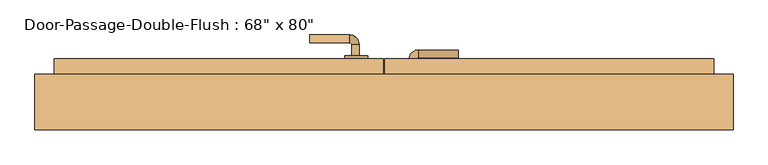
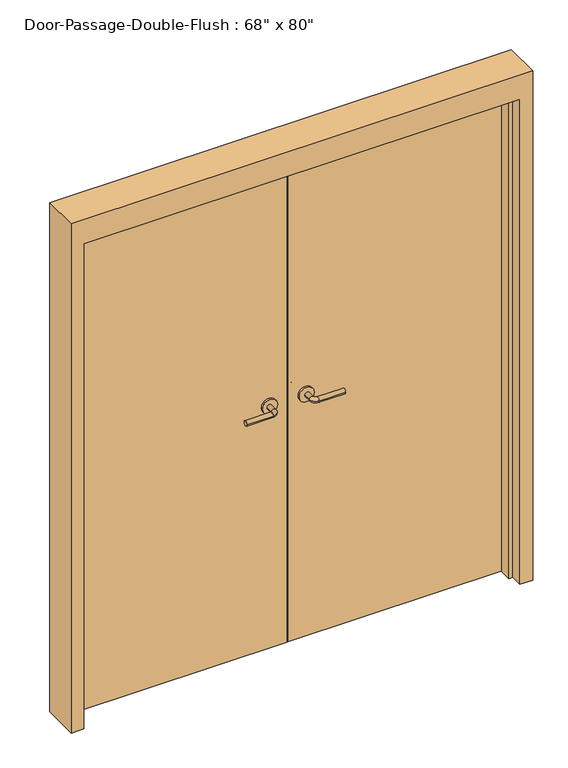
"""IFC4 building model written with IfcOpenShell, lengths in millimetres: door geometry."""

from ifc_helpers import new_model, si_unit, point, frame, frame_2d, origin, origin_with_axes, place, context, project, spatial, polyline, circle_curve, ellipse_curve, trimmed, segment, composite_curve, outline, extrude, faceted_brep, source, transform, mapped, element, save
from ifc_brep_helpers import plane_surface, cylinder_surface, revolved_surface, advanced_brep


def door_2eaef4e6(model_context):
    return source(origin(), model_context, "Body", "SolidModel", [
        advanced_brep(
        [(-65.009375, -9.5875, 1016.0), (-85.009375, -9.5875, 1016.0), (-65.009375, -39.5875, 1016.0), (-85.009375, -39.5875, 1016.0), (-90.009375, -44.5875, 1016.0), (-90.009375, -64.5875, 1016.0), (-195.009375, -64.5875, 1016.0), (-195.009375, -44.5875, 1016.0)],
        [
            (0, 1, circle_curve(frame((-75.009375, -9.5875, 1016.0), z_axis=(0.0, 1.0, 0.0), x_axis=(-1.0, 0.0, 0.0)), 10.0)),
            (1, 0, circle_curve(frame((-75.009375, -9.5875, 1016.0), z_axis=(0.0, 1.0, 0.0), x_axis=(-1.0, 0.0, 0.0)), 10.0)),
            (0, 2),
            (2, 3, circle_curve(frame((-75.009375, -39.5875, 1016.0), z_axis=(0.0, 1.0, 0.0), x_axis=(-1.0, 0.0, 0.0)), 10.0)),
            (3, 1),
            (3, 2, circle_curve(frame((-75.009375, -39.5875, 1016.0), z_axis=(0.0, 1.0, 0.0), x_axis=(-1.0, 0.0, 0.0)), 10.0)),
            (4, 3, circle_curve(frame((-90.009375, -39.5875, 1016.0), z_axis=(0.0, 0.0, 1.0), x_axis=(1.0, 0.0, 0.0)), 5.0)),
            (2, 5, circle_curve(frame((-90.009375, -39.5875, 1016.0), z_axis=(0.0, 0.0, -1.0), x_axis=(1.0, 0.0, 0.0)), 25.0)),
            (5, 4, circle_curve(frame((-90.009375, -54.5875, 1016.0), z_axis=(1.0, 0.0, 0.0), x_axis=(0.0, 1.0, 0.0)), 10.0)),
            (4, 5, circle_curve(frame((-90.009375, -54.5875, 1016.0), z_axis=(1.0, 0.0, 0.0), x_axis=(0.0, 1.0, 0.0)), 10.0)),
            (6, 7, circle_curve(frame((-195.009375, -54.5875, 1016.0), z_axis=(-1.0, 0.0, 0.0), x_axis=(0.0, 1.0, 0.0)), 10.0)),
            (7, 6, circle_curve(frame((-195.009375, -54.5875, 1016.0), z_axis=(-1.0, 0.0, 0.0), x_axis=(0.0, 1.0, 0.0)), 10.0)),
            (5, 6),
            (7, 4),
        ],
        [
            plane_surface(frame((-75.009375, -9.5875, 1016.0), z_axis=(0.0, 1.0, 0.0), x_axis=(0.0, 0.0, 1.0))),
            cylinder_surface(frame((-75.009375, -9.5875, 1016.0), z_axis=(0.0, 1.0, 0.0), x_axis=(-1.0, 0.0, 0.0)), 10.0),
            revolved_surface(trimmed(ellipse_curve(frame((-75.009375, -39.5875, 1016.0), z_axis=(0.0, 1.0, 0.0), x_axis=(-1.0, 0.0, 0.0)), 10.0, 10.0), [point((-65.009375, -39.5875, 1016.0))], [point((-85.009375, -39.5875, 1016.0))], True, "CARTESIAN"), (-90.009375, -39.5875, 1016.0), (0.0, 0.0, -1.0)),
            revolved_surface(trimmed(ellipse_curve(frame((-75.009375, -39.5875, 1016.0), z_axis=(0.0, 1.0, 0.0), x_axis=(-1.0, 0.0, 0.0)), 10.0, 10.0), [point((-85.009375, -39.5875, 1016.0))], [point((-65.009375, -39.5875, 1016.0))], True, "CARTESIAN"), (-90.009375, -39.5875, 1016.0), (0.0, 0.0, -1.0)),
            plane_surface(frame((-195.009375, -54.5875, 1016.0), z_axis=(-1.0, 0.0, 0.0), x_axis=(0.0, 0.0, 1.0))),
            cylinder_surface(frame((-90.009375, -54.5875, 1016.0), z_axis=(1.0, 0.0, 0.0), x_axis=(0.0, 1.0, 0.0)), 10.0),
        ],
        [
            (0, [[1, 2]]),
            (1, [[-1, 3, 4, 5]]),
            (1, [[-2, -5, 6, -3]]),
            (2, [[7, -4, 8, 9]]),
            (3, [[-8, -6, -7, 10]]),
            (4, [[11, 12]]),
            (5, [[-9, 13, -12, 14]]),
            (5, [[-10, -14, -11, -13]]),
        ],
    ),
        extrude(outline(composite_curve([segment(trimmed(circle_curve(frame_2d((1016.0, -72.509375)), 30.0), [point((1016.0, -42.509375))], [point((1016.0, -102.509375))], False, "CARTESIAN"), True, "CONTINUOUS"), segment(trimmed(circle_curve(frame_2d((1016.0, -72.509375)), 30.0), [point((1016.0, -102.509375))], [point((1016.0, -42.509375))], False, "CARTESIAN"), True, "CONTINUOUS")], self_intersect=False)), frame((0.0, -9.5875, 0.0), z_axis=(0.0, 1.0, 0.0), x_axis=(0.0, 0.0, 1.0)), (0.0, 0.0, 1.0), 8.0),
        advanced_brep(
        [(-65.009375, 90.55, 1016.0), (-85.009375, 90.55, 1016.0), (-85.009375, 120.55, 1016.0), (-65.009375, 120.55, 1016.0), (-90.009375, 125.55, 1016.0), (-90.009375, 145.55, 1016.0), (-195.009375, 145.55, 1016.0), (-195.009375, 125.55, 1016.0)],
        [
            (0, 1, circle_curve(frame((-75.009375, 90.55, 1016.0), z_axis=(0.0, -1.0, 0.0), x_axis=(-1.0, 0.0, 0.0)), 10.0)),
            (1, 0, circle_curve(frame((-75.009375, 90.55, 1016.0), z_axis=(0.0, -1.0, 0.0), x_axis=(-1.0, 0.0, 0.0)), 10.0)),
            (1, 2),
            (2, 3, circle_curve(frame((-75.009375, 120.55, 1016.0), z_axis=(0.0, -1.0, 0.0), x_axis=(-1.0, 0.0, 0.0)), 10.0)),
            (3, 0),
            (3, 2, circle_curve(frame((-75.009375, 120.55, 1016.0), z_axis=(0.0, -1.0, 0.0), x_axis=(-1.0, 0.0, 0.0)), 10.0)),
            (4, 5, circle_curve(frame((-90.009375, 135.55, 1016.0), z_axis=(1.0, 0.0, 0.0), x_axis=(0.0, -1.0, 0.0)), 10.0)),
            (5, 3, circle_curve(frame((-90.009375, 120.55, 1016.0), z_axis=(0.0, 0.0, -1.0), x_axis=(1.0, 0.0, 0.0)), 25.0)),
            (2, 4, circle_curve(frame((-90.009375, 120.55, 1016.0), z_axis=(0.0, 0.0, 1.0), x_axis=(1.0, 0.0, 0.0)), 5.0)),
            (5, 4, circle_curve(frame((-90.009375, 135.55, 1016.0), z_axis=(1.0, 0.0, 0.0), x_axis=(0.0, -1.0, 0.0)), 10.0)),
            (6, 7, circle_curve(frame((-195.009375, 135.55, 1016.0), z_axis=(-1.0, 0.0, 0.0), x_axis=(0.0, -1.0, 0.0)), 10.0)),
            (7, 6, circle_curve(frame((-195.009375, 135.55, 1016.0), z_axis=(-1.0, 0.0, 0.0), x_axis=(0.0, -1.0, 0.0)), 10.0)),
            (4, 7),
            (6, 5),
        ],
        [
            plane_surface(frame((-75.009375, 90.55, 1016.0), z_axis=(0.0, -1.0, 0.0), x_axis=(0.0, 0.0, 1.0))),
            cylinder_surface(frame((-75.009375, 90.55, 1016.0), z_axis=(0.0, -1.0, 0.0), x_axis=(-1.0, 0.0, 0.0)), 10.0),
            revolved_surface(trimmed(ellipse_curve(frame((-75.009375, 120.55, 1016.0), z_axis=(0.0, 1.0, 0.0), x_axis=(-1.0, 0.0, 0.0)), 10.0, 10.0), [point((-65.009375, 120.55, 1016.0))], [point((-85.009375, 120.55, 1016.0))], True, "CARTESIAN"), (-90.009375, 120.55, 1016.0), (0.0, 0.0, -1.0)),
            revolved_surface(trimmed(ellipse_curve(frame((-75.009375, 120.55, 1016.0), z_axis=(0.0, 1.0, 0.0), x_axis=(-1.0, 0.0, 0.0)), 10.0, 10.0), [point((-85.009375, 120.55, 1016.0))], [point((-65.009375, 120.55, 1016.0))], True, "CARTESIAN"), (-90.009375, 120.55, 1016.0), (0.0, 0.0, -1.0)),
            plane_surface(frame((-195.009375, 135.55, 1016.0), z_axis=(-1.0, 0.0, 0.0), x_axis=(0.0, 0.0, 1.0))),
            cylinder_surface(frame((-90.009375, 135.55, 1016.0), z_axis=(1.0, 0.0, 0.0), x_axis=(0.0, -1.0, 0.0)), 10.0),
        ],
        [
            (0, [[1, 2]]),
            (1, [[3, 4, 5, -2]]),
            (1, [[-5, 6, -3, -1]]),
            (2, [[7, 8, -4, 9]]),
            (3, [[10, -9, -6, -8]]),
            (4, [[11, 12]]),
            (5, [[13, -11, 14, -7]]),
            (5, [[-14, -12, -13, -10]]),
        ],
    ),
        extrude(outline(composite_curve([segment(trimmed(circle_curve(frame_2d((1016.0, -72.509375)), 30.0), [point((1016.0, -42.509375))], [point((1016.0, -102.509375))], False, "CARTESIAN"), True, "CONTINUOUS"), segment(trimmed(circle_curve(frame_2d((1016.0, -72.509375)), 30.0), [point((1016.0, -102.509375))], [point((1016.0, -42.509375))], False, "CARTESIAN"), True, "CONTINUOUS")], self_intersect=False)), frame((0.0, 82.55, 0.0), z_axis=(0.0, 1.0, 0.0), x_axis=(0.0, 0.0, 1.0)), (0.0, 0.0, 1.0), 8.0),
        advanced_brep(
        [(65.009375, -9.5875, 1016.0), (85.009375, -9.5875, 1016.0), (85.009375, -39.5875, 1016.0), (65.009375, -39.5875, 1016.0), (90.009375, -44.5875, 1016.0), (90.009375, -64.5875, 1016.0), (195.009375, -64.5875, 1016.0), (195.009375, -44.5875, 1016.0)],
        [
            (0, 1, circle_curve(frame((75.009375, -9.5875, 1016.0), z_axis=(0.0, 1.0, 0.0), x_axis=(1.0, 0.0, 0.0)), 10.0)),
            (1, 0, circle_curve(frame((75.009375, -9.5875, 1016.0), z_axis=(0.0, 1.0, 0.0), x_axis=(1.0, 0.0, 0.0)), 10.0)),
            (1, 2),
            (2, 3, circle_curve(frame((75.009375, -39.5875, 1016.0), z_axis=(0.0, 1.0, 0.0), x_axis=(1.0, 0.0, 0.0)), 10.0)),
            (3, 0),
            (3, 2, circle_curve(frame((75.009375, -39.5875, 1016.0), z_axis=(0.0, 1.0, 0.0), x_axis=(1.0, 0.0, 0.0)), 10.0)),
            (4, 5, circle_curve(frame((90.009375, -54.5875, 1016.0), z_axis=(-1.0, 0.0, 0.0), x_axis=(0.0, 1.0, 0.0)), 10.0)),
            (5, 3, circle_curve(frame((90.009375, -39.5875, 1016.0), z_axis=(0.0, 0.0, -1.0), x_axis=(-1.0, 0.0, 0.0)), 25.0)),
            (2, 4, circle_curve(frame((90.009375, -39.5875, 1016.0), z_axis=(0.0, 0.0, 1.0), x_axis=(-1.0, 0.0, 0.0)), 5.0)),
            (5, 4, circle_curve(frame((90.009375, -54.5875, 1016.0), z_axis=(-1.0, 0.0, 0.0), x_axis=(0.0, 1.0, 0.0)), 10.0)),
            (6, 7, circle_curve(frame((195.009375, -54.5875, 1016.0), z_axis=(1.0, 0.0, 0.0), x_axis=(0.0, 1.0, 0.0)), 10.0)),
            (7, 6, circle_curve(frame((195.009375, -54.5875, 1016.0), z_axis=(1.0, 0.0, 0.0), x_axis=(0.0, 1.0, 0.0)), 10.0)),
            (4, 7),
            (6, 5),
        ],
        [
            plane_surface(frame((75.009375, -9.5875, 1016.0), z_axis=(0.0, 1.0, 0.0), x_axis=(0.0, 0.0, 1.0))),
            cylinder_surface(frame((75.009375, -9.5875, 1016.0), z_axis=(0.0, 1.0, 0.0), x_axis=(1.0, 0.0, 0.0)), 10.0),
            revolved_surface(trimmed(ellipse_curve(frame((75.009375, -39.5875, 1016.0), z_axis=(0.0, -1.0, 0.0), x_axis=(1.0, 0.0, 0.0)), 10.0, 10.0), [point((65.009375, -39.5875, 1016.0))], [point((85.009375, -39.5875, 1016.0))], True, "CARTESIAN"), (90.009375, -39.5875, 1016.0), (0.0, 0.0, -1.0)),
            revolved_surface(trimmed(ellipse_curve(frame((75.009375, -39.5875, 1016.0), z_axis=(0.0, -1.0, 0.0), x_axis=(1.0, 0.0, 0.0)), 10.0, 10.0), [point((85.009375, -39.5875, 1016.0))], [point((65.009375, -39.5875, 1016.0))], True, "CARTESIAN"), (90.009375, -39.5875, 1016.0), (0.0, 0.0, -1.0)),
            plane_surface(frame((195.009375, -54.5875, 1016.0), z_axis=(1.0, 0.0, 0.0), x_axis=(0.0, 0.0, 1.0))),
            cylinder_surface(frame((90.009375, -54.5875, 1016.0), z_axis=(-1.0, 0.0, 0.0), x_axis=(0.0, 1.0, 0.0)), 10.0),
        ],
        [
            (0, [[1, 2]]),
            (1, [[3, 4, 5, -2]]),
            (1, [[-5, 6, -3, -1]]),
            (2, [[7, 8, -4, 9]]),
            (3, [[10, -9, -6, -8]]),
            (4, [[11, 12]]),
            (5, [[13, -11, 14, -7]]),
            (5, [[-14, -12, -13, -10]]),
        ],
    ),
        extrude(outline(composite_curve([segment(trimmed(circle_curve(frame_2d((1016.0, 72.509375)), 30.0), [point((1016.0, 42.509375))], [point((1016.0, 102.509375))], False, "CARTESIAN"), True, "CONTINUOUS"), segment(trimmed(circle_curve(frame_2d((1016.0, 72.509375)), 30.0), [point((1016.0, 102.509375))], [point((1016.0, 42.509375))], False, "CARTESIAN"), True, "CONTINUOUS")], self_intersect=False)), frame((0.0, -9.5875, 0.0), z_axis=(0.0, 1.0, 0.0), x_axis=(0.0, 0.0, 1.0)), (0.0, 0.0, 1.0), 8.0),
        advanced_brep(
        [(65.009375, 50.8625, 1016.0), (85.009375, 50.8625, 1016.0), (65.009375, 80.8625, 1016.0), (85.009375, 80.8625, 1016.0), (90.009375, 85.8625, 1016.0), (90.009375, 105.8625, 1016.0), (195.009375, 105.8625, 1016.0), (195.009375, 85.8625, 1016.0)],
        [
            (0, 1, circle_curve(frame((75.009375, 50.8625, 1016.0), z_axis=(0.0, -1.0, 0.0), x_axis=(1.0, 0.0, 0.0)), 10.0)),
            (1, 0, circle_curve(frame((75.009375, 50.8625, 1016.0), z_axis=(0.0, -1.0, 0.0), x_axis=(1.0, 0.0, 0.0)), 10.0)),
            (0, 2),
            (2, 3, circle_curve(frame((75.009375, 80.8625, 1016.0), z_axis=(0.0, -1.0, 0.0), x_axis=(1.0, 0.0, 0.0)), 10.0)),
            (3, 1),
            (3, 2, circle_curve(frame((75.009375, 80.8625, 1016.0), z_axis=(0.0, -1.0, 0.0), x_axis=(1.0, 0.0, 0.0)), 10.0)),
            (4, 3, circle_curve(frame((90.009375, 80.8625, 1016.0), z_axis=(0.0, 0.0, 1.0), x_axis=(-1.0, 0.0, 0.0)), 5.0)),
            (2, 5, circle_curve(frame((90.009375, 80.8625, 1016.0), z_axis=(0.0, 0.0, -1.0), x_axis=(-1.0, 0.0, 0.0)), 25.0)),
            (5, 4, circle_curve(frame((90.009375, 95.8625, 1016.0), z_axis=(-1.0, 0.0, 0.0), x_axis=(0.0, -1.0, 0.0)), 10.0)),
            (4, 5, circle_curve(frame((90.009375, 95.8625, 1016.0), z_axis=(-1.0, 0.0, 0.0), x_axis=(0.0, -1.0, 0.0)), 10.0)),
            (6, 7, circle_curve(frame((195.009375, 95.8625, 1016.0), z_axis=(1.0, 0.0, 0.0), x_axis=(0.0, -1.0, 0.0)), 10.0)),
            (7, 6, circle_curve(frame((195.009375, 95.8625, 1016.0), z_axis=(1.0, 0.0, 0.0), x_axis=(0.0, -1.0, 0.0)), 10.0)),
            (5, 6),
            (7, 4),
        ],
        [
            plane_surface(frame((75.009375, 50.8625, 1016.0), z_axis=(0.0, -1.0, 0.0), x_axis=(0.0, 0.0, 1.0))),
            cylinder_surface(frame((75.009375, 50.8625, 1016.0), z_axis=(0.0, -1.0, 0.0), x_axis=(1.0, 0.0, 0.0)), 10.0),
            revolved_surface(trimmed(ellipse_curve(frame((75.009375, 80.8625, 1016.0), z_axis=(0.0, -1.0, 0.0), x_axis=(1.0, 0.0, 0.0)), 10.0, 10.0), [point((65.009375, 80.8625, 1016.0))], [point((85.009375, 80.8625, 1016.0))], True, "CARTESIAN"), (90.009375, 80.8625, 1016.0), (0.0, 0.0, -1.0)),
            revolved_surface(trimmed(ellipse_curve(frame((75.009375, 80.8625, 1016.0), z_axis=(0.0, -1.0, 0.0), x_axis=(1.0, 0.0, 0.0)), 10.0, 10.0), [point((85.009375, 80.8625, 1016.0))], [point((65.009375, 80.8625, 1016.0))], True, "CARTESIAN"), (90.009375, 80.8625, 1016.0), (0.0, 0.0, -1.0)),
            plane_surface(frame((195.009375, 95.8625, 1016.0), z_axis=(1.0, 0.0, 0.0), x_axis=(0.0, 0.0, 1.0))),
            cylinder_surface(frame((90.009375, 95.8625, 1016.0), z_axis=(-1.0, 0.0, 0.0), x_axis=(0.0, -1.0, 0.0)), 10.0),
        ],
        [
            (0, [[1, 2]]),
            (1, [[-1, 3, 4, 5]]),
            (1, [[-2, -5, 6, -3]]),
            (2, [[7, -4, 8, 9]]),
            (3, [[-8, -6, -7, 10]]),
            (4, [[11, 12]]),
            (5, [[-9, 13, -12, 14]]),
            (5, [[-10, -14, -11, -13]]),
        ],
    ),
        extrude(outline(composite_curve([segment(trimmed(circle_curve(frame_2d((1016.0, 72.509375)), 30.0), [point((1016.0, 42.509375))], [point((1016.0, 102.509375))], False, "CARTESIAN"), True, "CONTINUOUS"), segment(trimmed(circle_curve(frame_2d((1016.0, 72.509375)), 30.0), [point((1016.0, 102.509375))], [point((1016.0, 42.509375))], False, "CARTESIAN"), True, "CONTINUOUS")], self_intersect=False)), frame((0.0, 42.8625, 0.0), z_axis=(0.0, 1.0, 0.0), x_axis=(0.0, 0.0, 1.0)), (0.0, 0.0, 1.0), 8.0),
        faceted_brep([(863.6, -6.35, 0.0), (863.6, 42.8625, 0.0), (914.4, 42.8625, 0.0), (914.4, -103.1875, 0.0), (863.6, -103.1875, 0.0), (863.6, -53.975, 0.0), (847.725, -53.975, 0.0), (847.725, -6.35, 0.0), (863.6, -6.35, 2032.0), (863.6, 42.8625, 2032.0), (-863.6, 42.8625, 2032.0), (-863.6, 42.8625, 0.0), (-914.4, 42.8625, 0.0), (-914.4, 42.8625, 2133.6), (914.4, 42.8625, 2133.6), (914.4, -103.1875, 2133.6), (-914.4, -103.1875, 2133.6), (-914.4, -103.1875, 0.0), (-863.6, -103.1875, 0.0), (-863.6, -103.1875, 2032.0), (863.6, -103.1875, 2032.0), (863.6, -53.975, 2032.0), (-863.6, -53.975, 2032.0), (-863.6, -53.975, 0.0), (-847.725, -53.975, 0.0), (-847.725, -53.975, 2016.125), (847.725, -53.975, 2016.125), (847.725, -6.35, 2016.125), (-847.725, -6.35, 2016.125), (-847.725, -6.35, 0.0), (-863.6, -6.35, 0.0), (-863.6, -6.35, 2032.0)], [[[0, 1, 2, 3, 4, 5, 6, 7]], [[1, 0, 8, 9]], [[2, 1, 9, 10, 11, 12, 13, 14]], [[3, 2, 14, 15]], [[4, 3, 15, 16, 17, 18, 19, 20]], [[5, 4, 20, 21]], [[6, 5, 21, 22, 23, 24, 25, 26]], [[7, 6, 26, 27]], [[0, 7, 27, 28, 29, 30, 31, 8]], [[9, 8, 31, 10]], [[20, 19, 22, 21]], [[26, 25, 28, 27]], [[12, 11, 30, 29, 24, 23, 18, 17]], [[11, 10, 31, 30]], [[13, 12, 17, 16]], [[19, 18, 23, 22]], [[25, 24, 29, 28]], [[15, 14, 13, 16]]]),
        extrude(outline(polyline([(863.6, -1.5875), (1.5875, -1.5875), (1.5875, 82.55), (863.6, 82.55), (863.6, -1.5875)])), origin_with_axes(), (0.0, 0.0, 1.0), 2032.0),
        extrude(outline(polyline([(-1.5875, -1.5875), (-863.6, -1.5875), (-863.6, 82.55), (-1.5875, 82.55), (-1.5875, -1.5875)])), origin_with_axes(), (0.0, 0.0, 1.0), 2032.0),
    ])


if __name__ == "__main__":
    model = new_model("IFC4")
    model_context = context("Model", 3, world=origin())
    ifc_project = project(units=[si_unit("LENGTHUNIT", "METRE", prefix="MILLI")], contexts=[model_context])
    site = spatial("IfcSite", under=ifc_project)
    building = spatial("IfcBuilding", under=site)
    placement = place(None, origin())
    door_shape = door_2eaef4e6(model_context)
    element("IfcDoor", 1, ObjectType="Door-Passage-Double-Flush : 68\" x 80\"", at=placement, inside=building, context=model_context, shape_type="MappedRepresentation", body=[
        mapped(door_shape, transform((0.0, 0.0, 0.0), x_axis=(1.0, 0.0, 0.0), y_axis=(0.0, 1.0, 0.0), z_axis=(0.0, 0.0, 1.0))),
    ])
    save(model, "model.ifc")
